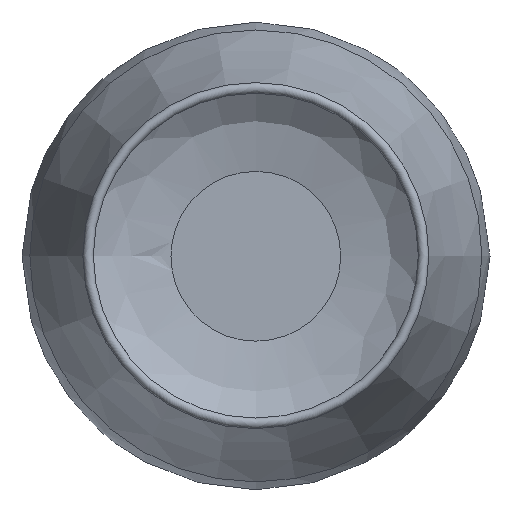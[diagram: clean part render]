
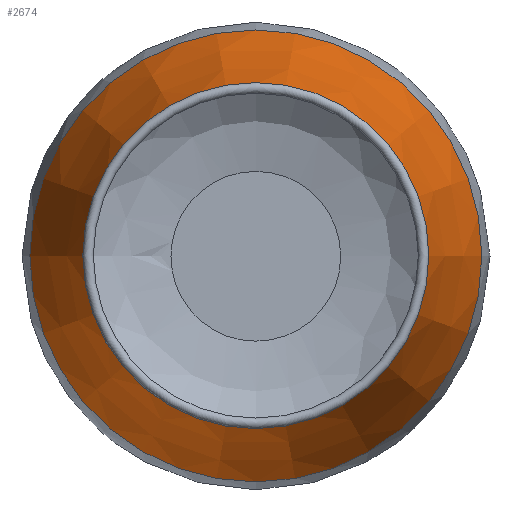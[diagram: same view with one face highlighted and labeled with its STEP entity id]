
A CAD part, top view. The second image highlights one B-rep face of the part: STEP entity #2674.
In plain terms, the highlighted conical face has half-angle 17.183 degrees and reference radius 23.654 mm.
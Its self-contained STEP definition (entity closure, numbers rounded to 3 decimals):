
#2643=CARTESIAN_POINT('',(24.039,0.,24.893));
#2644=VERTEX_POINT('',#2643);
#2645=CARTESIAN_POINT('',(0.,0.,24.893));
#2646=DIRECTION('',(0.0,0.0,1.0));
#2647=DIRECTION('',(1.0,0.0,0.0));
#2648=AXIS2_PLACEMENT_3D('',#2645,#2646,#2647);
#2649=CIRCLE('',#2648,24.039);
#2650=EDGE_CURVE('',#2644,#2644,#2649,.T.);
#2655=CARTESIAN_POINT('',(0.,0.,26.137));
#2656=DIRECTION('',(0.,0.0,-1.0));
#2657=DIRECTION('',(-1.0,0.0,0.));
#2658=AXIS2_PLACEMENT_3D('',#2655,#2656,#2657);
#2659=CONICAL_SURFACE('',#2658,23.654,17.183);
#2660=CARTESIAN_POINT('',(31.736,0.,0.));
#2661=VERTEX_POINT('',#2660);
#2662=CARTESIAN_POINT('',(0.0,0.0,0.0));
#2663=DIRECTION('',(0.0,0.0,1.0));
#2664=DIRECTION('',(1.0,0.0,0.0));
#2665=AXIS2_PLACEMENT_3D('',#2662,#2663,#2664);
#2666=CIRCLE('',#2665,31.736);
#2667=EDGE_CURVE('',#2661,#2661,#2666,.T.);
#2668=ORIENTED_EDGE('',*,*,#2667,.T.);
#2669=EDGE_LOOP('',(#2668));
#2670=FACE_OUTER_BOUND('',#2669,.T.);
#2671=ORIENTED_EDGE('',*,*,#2650,.F.);
#2672=EDGE_LOOP('',(#2671));
#2673=FACE_BOUND('',#2672,.T.);
#2674=ADVANCED_FACE('',(#2670,#2673),#2659,.T.);
